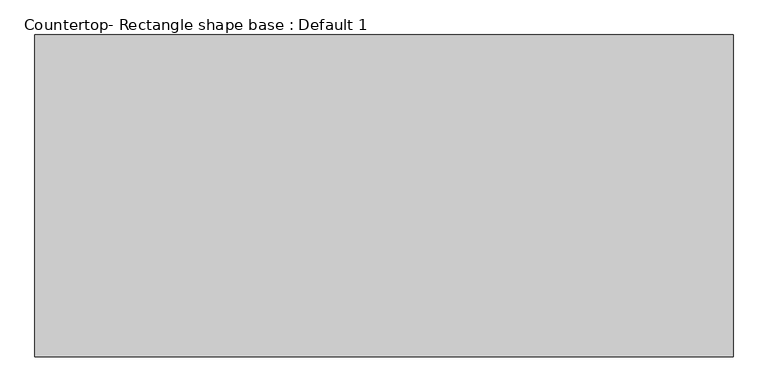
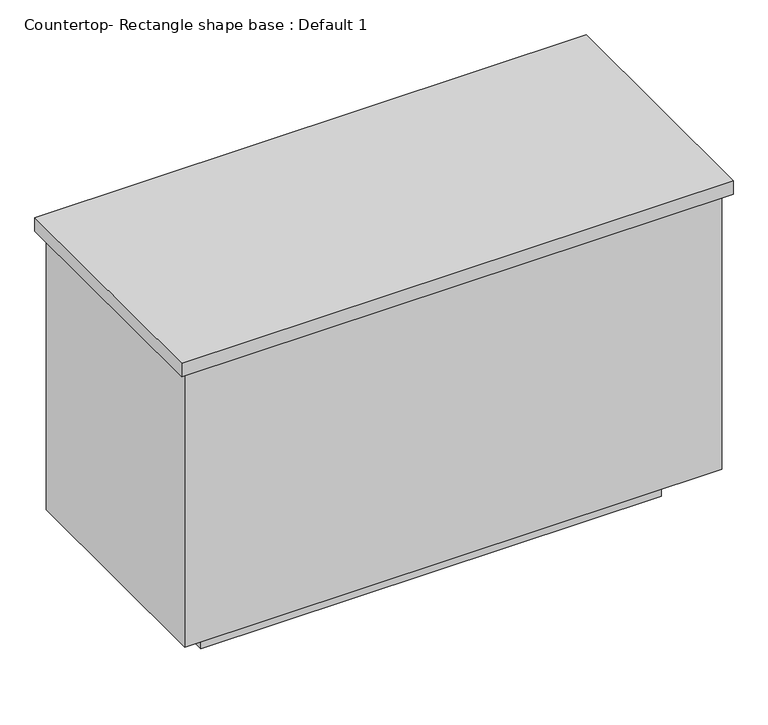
"""IFC4 building model written with IfcOpenShell, lengths in millimetres: proxy geometry, Countertop- Rectangle shape base : Default 1."""

from ifc_helpers import new_model, si_unit, frame, origin, origin_with_axes, place, context, project, spatial, polyline, outline, extrude, source, transform, mapped, element, save


def countertop_rectangle_shape_base_default_1_0d4ae95d(model_context):
    return source(origin(), model_context, "Body", "SweptSolid", [
        extrude(outline(polyline([(31.75, 44.45), (31.75, 717.55), (1492.25, 717.55), (1492.25, 44.45), (31.75, 44.45)])), frame((0.0, 0.0, 876.3), z_axis=(0.0, 0.0, 1.0), x_axis=(1.0, 0.0, 0.0)), (0.0, 0.0, 1.0), 38.1),
        extrude(outline(polyline([(1473.2, 698.5), (1473.2, 63.5), (50.8, 63.5), (50.8, 698.5), (1473.2, 698.5)])), frame((0.0, 0.0, 101.6), z_axis=(0.0, 0.0, 1.0), x_axis=(1.0, 0.0, 0.0)), (0.0, 0.0, 1.0), 774.7),
        extrude(outline(polyline([(1371.6, 596.9), (1371.6, 165.1), (152.4, 165.1), (152.4, 596.9), (1371.6, 596.9)])), origin_with_axes(), (0.0, 0.0, 1.0), 101.6),
    ])


if __name__ == "__main__":
    model = new_model("IFC4")
    model_context = context("Model", 3, world=origin())
    ifc_project = project(units=[si_unit("LENGTHUNIT", "METRE", prefix="MILLI")], contexts=[model_context])
    site = spatial("IfcSite", under=ifc_project)
    building = spatial("IfcBuilding", under=site)
    placement = place(None, origin())
    countertop_rectangle_shape_base_default_1_shape = countertop_rectangle_shape_base_default_1_0d4ae95d(model_context)
    element("IfcBuildingElementProxy", 1, Name="Countertop- Rectangle shape base : Default 1", ObjectType="Countertop- Rectangle shape base : Default 1", at=placement, inside=building, context=model_context, shape_type="MappedRepresentation", body=[
        mapped(countertop_rectangle_shape_base_default_1_shape, transform((0.0, 0.0, 0.0), x_axis=(1.0, 0.0, 0.0), y_axis=(0.0, 1.0, 0.0), z_axis=(0.0, 0.0, 1.0))),
    ])
    save(model, "model.ifc")
